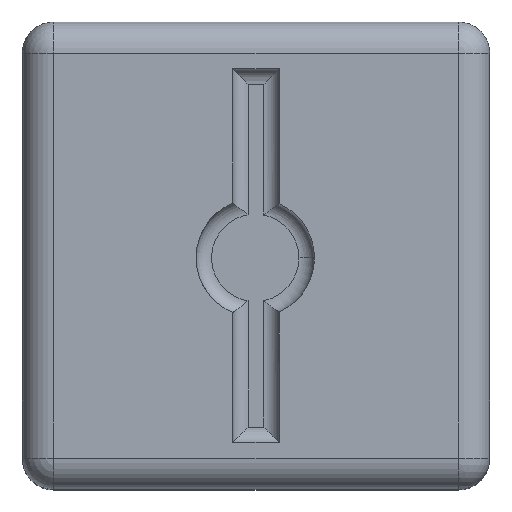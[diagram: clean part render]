
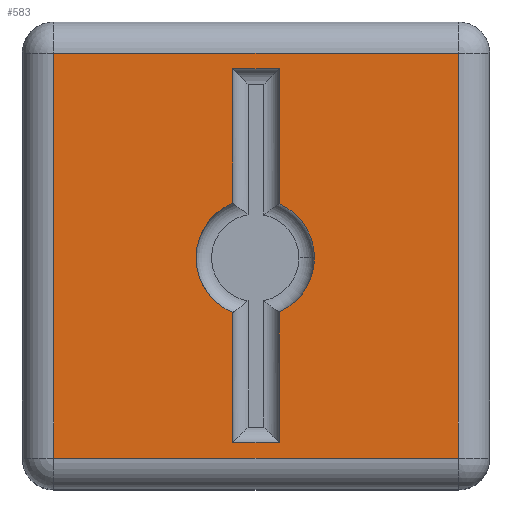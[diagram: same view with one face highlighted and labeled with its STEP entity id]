
A CAD part, top view. The second image highlights one B-rep face of the part: STEP entity #583.
In plain terms, the highlighted planar face has unit normal (0, 0, 1).
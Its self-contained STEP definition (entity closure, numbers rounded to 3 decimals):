
#467=CARTESIAN_POINT('',(0.,0.,15.));
#468=DIRECTION('',(0.,0.,1.));
#469=DIRECTION('',(1.,0.,0.));
#470=AXIS2_PLACEMENT_3D('',#467,#468,#469);
#471=PLANE('',#470);
#472=CARTESIAN_POINT('',(-6.5,6.5,15.));
#473=VERTEX_POINT('',#472);
#474=CARTESIAN_POINT('',(-6.5,-6.5,15.));
#475=VERTEX_POINT('',#474);
#476=CARTESIAN_POINT('',(-6.5,6.5,15.));
#477=DIRECTION('',(-0.,-1.,-0.));
#478=VECTOR('',#477,13.);
#479=LINE('',#476,#478);
#480=EDGE_CURVE('',#473,#475,#479,.T.);
#481=ORIENTED_EDGE('',*,*,#480,.T.);
#482=CARTESIAN_POINT('',(6.5,-6.5,15.));
#483=VERTEX_POINT('',#482);
#484=CARTESIAN_POINT('',(-6.5,-6.5,15.));
#485=DIRECTION('',(1.,-0.,-0.));
#486=VECTOR('',#485,13.);
#487=LINE('',#484,#486);
#488=EDGE_CURVE('',#475,#483,#487,.T.);
#489=ORIENTED_EDGE('',*,*,#488,.T.);
#490=CARTESIAN_POINT('',(6.5,6.5,15.));
#491=VERTEX_POINT('',#490);
#492=CARTESIAN_POINT('',(6.5,-6.5,15.));
#493=DIRECTION('',(-0.,1.,-0.));
#494=VECTOR('',#493,13.);
#495=LINE('',#492,#494);
#496=EDGE_CURVE('',#483,#491,#495,.T.);
#497=ORIENTED_EDGE('',*,*,#496,.T.);
#498=CARTESIAN_POINT('',(6.5,6.5,15.));
#499=DIRECTION('',(-1.,-0.,0.));
#500=VECTOR('',#499,13.);
#501=LINE('',#498,#500);
#502=EDGE_CURVE('',#491,#473,#501,.T.);
#503=ORIENTED_EDGE('',*,*,#502,.T.);
#504=EDGE_LOOP('',(#481,#489,#497,#503));
#505=FACE_BOUND('',#504,.T.);
#506=CARTESIAN_POINT('',(-0.75,1.684,15.));
#507=VERTEX_POINT('',#506);
#508=CARTESIAN_POINT('',(-0.75,6.,15.));
#509=VERTEX_POINT('',#508);
#510=CARTESIAN_POINT('',(-0.75,1.684,15.));
#511=DIRECTION('',(0.,1.,0.));
#512=VECTOR('',#511,4.316);
#513=LINE('',#510,#512);
#514=EDGE_CURVE('',#507,#509,#513,.T.);
#515=ORIENTED_EDGE('',*,*,#514,.T.);
#516=CARTESIAN_POINT('',(0.75,6.,15.));
#517=VERTEX_POINT('',#516);
#518=CARTESIAN_POINT('',(-0.75,6.,15.));
#519=DIRECTION('',(1.,0.,-0.));
#520=VECTOR('',#519,1.5);
#521=LINE('',#518,#520);
#522=EDGE_CURVE('',#509,#517,#521,.T.);
#523=ORIENTED_EDGE('',*,*,#522,.T.);
#524=CARTESIAN_POINT('',(0.75,1.664,15.));
#525=VERTEX_POINT('',#524);
#526=CARTESIAN_POINT('',(0.75,6.,15.));
#527=DIRECTION('',(0.,-1.,0.));
#528=VECTOR('',#527,4.336);
#529=LINE('',#526,#528);
#530=EDGE_CURVE('',#517,#525,#529,.T.);
#531=ORIENTED_EDGE('',*,*,#530,.T.);
#532=CARTESIAN_POINT('',(1.877,-0.072,15.));
#533=VERTEX_POINT('',#532);
#534=CARTESIAN_POINT('',(-0.023,-0.072,15.));
#535=DIRECTION('',(0.,0.,1.));
#536=DIRECTION('',(1.,0.,-0.));
#537=AXIS2_PLACEMENT_3D('',#534,#535,#536);
#538=CIRCLE('',#537,1.9);
#539=EDGE_CURVE('',#533,#525,#538,.T.);
#540=ORIENTED_EDGE('',*,*,#539,.F.);
#541=CARTESIAN_POINT('',(0.75,-1.807,15.));
#542=VERTEX_POINT('',#541);
#543=CARTESIAN_POINT('',(-0.023,-0.072,15.));
#544=DIRECTION('',(0.,0.,1.));
#545=DIRECTION('',(1.,0.,-0.));
#546=AXIS2_PLACEMENT_3D('',#543,#544,#545);
#547=CIRCLE('',#546,1.9);
#548=EDGE_CURVE('',#542,#533,#547,.T.);
#549=ORIENTED_EDGE('',*,*,#548,.F.);
#550=CARTESIAN_POINT('',(0.75,-6.,15.));
#551=VERTEX_POINT('',#550);
#552=CARTESIAN_POINT('',(0.75,-1.807,15.));
#553=DIRECTION('',(0.,-1.,0.));
#554=VECTOR('',#553,4.193);
#555=LINE('',#552,#554);
#556=EDGE_CURVE('',#542,#551,#555,.T.);
#557=ORIENTED_EDGE('',*,*,#556,.T.);
#558=CARTESIAN_POINT('',(-0.75,-6.,15.));
#559=VERTEX_POINT('',#558);
#560=CARTESIAN_POINT('',(0.75,-6.,15.));
#561=DIRECTION('',(-1.,0.,0.));
#562=VECTOR('',#561,1.5);
#563=LINE('',#560,#562);
#564=EDGE_CURVE('',#551,#559,#563,.T.);
#565=ORIENTED_EDGE('',*,*,#564,.T.);
#566=CARTESIAN_POINT('',(-0.75,-1.827,15.));
#567=VERTEX_POINT('',#566);
#568=CARTESIAN_POINT('',(-0.75,-6.,15.));
#569=DIRECTION('',(0.,1.,0.));
#570=VECTOR('',#569,4.173);
#571=LINE('',#568,#570);
#572=EDGE_CURVE('',#559,#567,#571,.T.);
#573=ORIENTED_EDGE('',*,*,#572,.T.);
#574=CARTESIAN_POINT('',(-0.023,-0.072,15.));
#575=DIRECTION('',(0.,0.,1.));
#576=DIRECTION('',(1.,0.,-0.));
#577=AXIS2_PLACEMENT_3D('',#574,#575,#576);
#578=CIRCLE('',#577,1.9);
#579=EDGE_CURVE('',#507,#567,#578,.T.);
#580=ORIENTED_EDGE('',*,*,#579,.F.);
#581=EDGE_LOOP('',(#515,#523,#531,#540,#549,#557,#565,#573,#580));
#582=FACE_BOUND('',#581,.T.);
#583=ADVANCED_FACE('',(#505,#582),#471,.T.);
